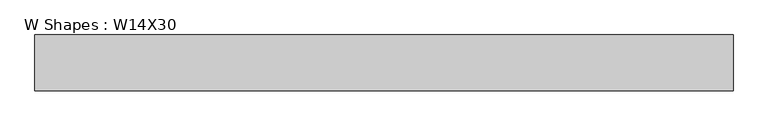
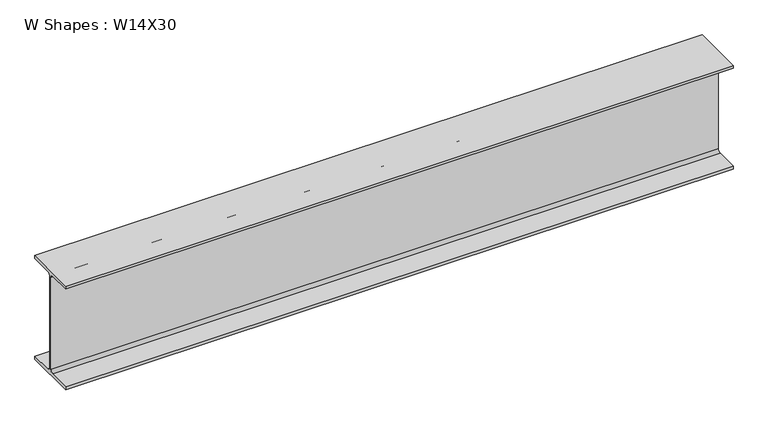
"""IFC4 building model written with IfcOpenShell, lengths in millimetres: beam geometry, W Shapes : W14X30."""

import ifcopenshell
import ifcopenshell.guid

model = None  # the IFC model being written
_history = None  # IfcOwnerHistory: only IFC2X3 demands one
_inside = {}  # id of a spatial element -> (the spatial element, [elements in it])
_under = {}  # id of a project, library or spatial element -> (it, [spatial elements below it])
_declared = {}  # id of a project -> (the project, [libraries it declares])
_typed = {}  # id of a type object -> (the type object, [elements of that type])
_made_of = {}  # id of a material, layer set ... -> (it, [elements and type objects made of it])


def new_model(schema):
    """Start an empty IFC model of exactly this schema.

    Asked for "IFC4X3", IfcOpenShell would pick the latest addendum, in which some entities
    have other attributes; the version numbers below select the first issue.
    IFC2X3 requires an IfcOwnerHistory on every rooted entity: one is made here for all.
    """
    global model, _history
    if schema == "IFC4X3":
        model = ifcopenshell.file(schema_version=(4, 3, 0, 0))
    else:
        model = ifcopenshell.file(schema=schema)
    _inside.clear()
    _under.clear()
    _declared.clear()
    _typed.clear()
    _made_of.clear()
    _history = None
    if model.schema == "IFC2X3":
        org = make("IfcOrganization", Name="unknown")
        user = make(
            "IfcPersonAndOrganization",
            ThePerson=make("IfcPerson", FamilyName="unknown"),
            TheOrganization=org,
        )
        app = make(
            "IfcApplication",
            ApplicationDeveloper=org,
            Version="unknown",
            ApplicationFullName="unknown",
            ApplicationIdentifier="unknown",
        )
        _history = make(
            "IfcOwnerHistory",
            OwningUser=user,
            OwningApplication=app,
            ChangeAction="ADDED",
            CreationDate=0,
        )
    return model


def make(cls, **values):
    """One entity of the class cls with the attributes given. An attribute that is None is left unset."""
    return model.create_entity(
        cls, **{name: value for name, value in values.items() if value is not None}
    )


def rooted(cls, **values):
    """An entity with a GlobalId (a new one), such as an element, a storey or a relation."""
    return make(cls, GlobalId=ifcopenshell.guid.new(), OwnerHistory=_history, **values)


def si_unit(unit_type, name, prefix=None):
    """IfcSIUnit, for example si_unit("LENGTHUNIT", "METRE", prefix="MILLI")."""
    return make("IfcSIUnit", UnitType=unit_type, Prefix=prefix, Name=name)


def assignment(units):
    """IfcUnitAssignment: the units of a project."""
    return None if units is None else make("IfcUnitAssignment", Units=units)


def point(xyz):
    """IfcCartesianPoint."""
    return None if xyz is None else make("IfcCartesianPoint", Coordinates=xyz)


def direction(xyz):
    """IfcDirection."""
    return None if xyz is None else make("IfcDirection", DirectionRatios=xyz)


def frame(location, z_axis=None, x_axis=None):
    """IfcAxis2Placement3D, a coordinate frame: its origin and axes. An axis left out is left unset."""
    return make(
        "IfcAxis2Placement3D",
        Location=point(location),
        Axis=direction(z_axis),
        RefDirection=direction(x_axis),
    )


def frame_2d(location, x_axis=None):
    """IfcAxis2Placement2D, a coordinate frame in the plane: its origin and x axis."""
    return make(
        "IfcAxis2Placement2D", Location=point(location), RefDirection=direction(x_axis)
    )


def origin():
    """The frame at (0, 0, 0) with its axes left unset."""
    return frame((0.0, 0.0, 0.0))


def place(relative_to, where):
    """IfcLocalPlacement: puts the frame where relative to a parent placement (None: the world)."""
    return make(
        "IfcLocalPlacement", PlacementRelTo=relative_to, RelativePlacement=where
    )


def context(
    kind, dimensions, precision=None, world=None, true_north=None, identifier=None
):
    """IfcGeometricRepresentationContext, for example the 3D "Model" context."""
    return make(
        "IfcGeometricRepresentationContext",
        ContextIdentifier=identifier,
        ContextType=kind,
        CoordinateSpaceDimension=dimensions,
        Precision=precision,
        WorldCoordinateSystem=world,
        TrueNorth=true_north,
    )


def project(units=None, contexts=None):
    """IfcProject with its units and contexts."""
    return rooted(
        "IfcProject",
        Name="project",
        RepresentationContexts=contexts,
        UnitsInContext=assignment(units),
    )


def spatial(cls, under=None, at=None, **own):
    """A site, building, storey or space (cls), placed at a placement, below another one or the project."""
    s = rooted(cls, ObjectPlacement=at, **own)
    if under is not None:
        _under.setdefault(under.id(), (under, []))[1].append(s)
    return s


def polyline(points):
    """IfcPolyline through the points."""
    return make("IfcPolyline", Points=[point(p) for p in points])


def circle_curve(where, radius):
    """IfcCircle in the frame where."""
    return make("IfcCircle", Position=where, Radius=radius)


def trimmed(basis, trim1, trim2, sense, master):
    """IfcTrimmedCurve: the piece of a basis curve between two trims."""
    return make(
        "IfcTrimmedCurve",
        BasisCurve=basis,
        Trim1=trim1,
        Trim2=trim2,
        SenseAgreement=sense,
        MasterRepresentation=master,
    )


def segment(curve, same_sense, transition):
    """IfcCompositeCurveSegment."""
    return make(
        "IfcCompositeCurveSegment",
        Transition=transition,
        SameSense=same_sense,
        ParentCurve=curve,
    )


def composite_curve(segments, self_intersect=None):
    """IfcCompositeCurve: segments joined end to end."""
    return make("IfcCompositeCurve", Segments=segments, SelfIntersect=self_intersect)


def outline(outer, holes=None, kind="AREA"):
    """IfcArbitraryClosedProfileDef: a profile drawn as a closed curve; with holes, ...WithVoids."""
    if holes is None:
        return make("IfcArbitraryClosedProfileDef", ProfileType=kind, OuterCurve=outer)
    return make(
        "IfcArbitraryProfileDefWithVoids",
        ProfileType=kind,
        OuterCurve=outer,
        InnerCurves=holes,
    )


def extrude(swept, where, along, depth):
    """IfcExtrudedAreaSolid: the profile swept, set in the frame where, extruded along a direction by depth."""
    return make(
        "IfcExtrudedAreaSolid",
        SweptArea=swept,
        Position=where,
        ExtrudedDirection=direction(along),
        Depth=depth,
    )


def shape(context_of_items, identifier, shape_type, items):
    """IfcShapeRepresentation: the items that make up one representation, for example the "Body"."""
    return make(
        "IfcShapeRepresentation",
        ContextOfItems=context_of_items,
        RepresentationIdentifier=identifier,
        RepresentationType=shape_type,
        Items=items,
    )


def source(mapping_origin, context_of_items, identifier, shape_type, items):
    """IfcRepresentationMap: a shape defined once, which mapped items show again and again."""
    return make(
        "IfcRepresentationMap",
        MappingOrigin=mapping_origin,
        MappedRepresentation=shape(context_of_items, identifier, shape_type, items),
    )


def transform(
    local_origin,
    x_axis=None,
    y_axis=None,
    z_axis=None,
    scale=None,
    scale2=None,
    scale3=None,
    uniform=True,
):
    """IfcCartesianTransformationOperator3D, or its non-uniform kind. x_axis, y_axis, z_axis: its Axis1, 2, 3."""
    if uniform:
        return make(
            "IfcCartesianTransformationOperator3D",
            Axis1=direction(x_axis),
            Axis2=direction(y_axis),
            LocalOrigin=point(local_origin),
            Scale=scale,
            Axis3=direction(z_axis),
        )
    return make(
        "IfcCartesianTransformationOperator3DnonUniform",
        Axis1=direction(x_axis),
        Axis2=direction(y_axis),
        LocalOrigin=point(local_origin),
        Scale=scale,
        Axis3=direction(z_axis),
        Scale2=scale2,
        Scale3=scale3,
    )


def mapped(mapping_source, mapping_target):
    """IfcMappedItem: shows the shape of a source again, moved by a transform."""
    return make(
        "IfcMappedItem", MappingSource=mapping_source, MappingTarget=mapping_target
    )


def made_of(thing, what):
    """Note that an element or type object is made of a material, layer set ...; save() writes the relation."""
    if what is not None:
        _made_of.setdefault(what.id(), (what, []))[1].append(thing)
    return thing


def element(
    cls,
    number,
    at=None,
    inside=None,
    cuts=None,
    type_object=None,
    material=None,
    context=None,
    identifier="Body",
    shape_type=None,
    held_by="IfcProductDefinitionShape",
    body=None,
    shapes=None,
    **own,
):
    """One element of the class cls, such as IfcWall. Its Tag is "e" and its number.

    at: its placement. inside: the storey or other place that contains it. cuts: it is an
    opening in that element (IfcRelVoidsElement). A single representation is given by context,
    identifier, shape_type and body (its items); several are given by shapes. held_by: the class
    of the entity that holds the representations. save() writes the other relations.
    """
    e = rooted(cls, Tag="e%d" % number, ObjectPlacement=at, **own)
    if body is not None:
        shapes = [shape(context, identifier, shape_type, body)]
    if shapes is not None:
        e.Representation = make(held_by, Representations=shapes)
    if inside is not None:
        _inside.setdefault(inside.id(), (inside, []))[1].append(e)
    if cuts is not None:
        rooted(
            "IfcRelVoidsElement", RelatingBuildingElement=cuts, RelatedOpeningElement=e
        )
    if type_object is not None:
        _typed.setdefault(type_object.id(), (type_object, []))[1].append(e)
    return made_of(e, material)


def aggregate(whole, parts):
    """IfcRelAggregates: a whole, such as a stair, and the parts it consists of."""
    return rooted("IfcRelAggregates", RelatingObject=whole, RelatedObjects=parts)


def save(model, path):
    """Write the relations noted so far, then the file.

    IfcRelAggregates (storeys below a building ...), IfcRelContainedInSpatialStructure (elements
    in a storey), IfcRelDefinesByType, IfcRelAssociatesMaterial and IfcRelDeclares: one each for
    every whole, place, type object, material and project.
    """
    for whole, parts in _under.values():
        aggregate(whole, parts)
    for where, things in _inside.values():
        rooted(
            "IfcRelContainedInSpatialStructure",
            RelatedElements=things,
            RelatingStructure=where,
        )
    for kind, things in _typed.values():
        rooted("IfcRelDefinesByType", RelatedObjects=things, RelatingType=kind)
    for what, things in _made_of.values():
        rooted("IfcRelAssociatesMaterial", RelatedObjects=things, RelatingMaterial=what)
    for by, libraries in _declared.values():
        rooted("IfcRelDeclares", RelatingContext=by, RelatedDefinitions=libraries)
    model.write(path)


def w_shapes_w14x30_1f0b7ad3(model_context):
    return source(origin(), model_context, "Body", "SweptSolid", [
        extrude(outline(composite_curve([segment(polyline([(85.471, -165.354), (85.471, -175.26), (-85.471, -175.26), (-85.471, -165.354), (-13.589, -165.354)]), True, "CONTINUOUS"), segment(trimmed(circle_curve(frame_2d((-13.589, -155.194)), 10.16), [point((-13.589, -165.354))], [point((-3.429, -155.194))], True, "CARTESIAN"), True, "CONTINUOUS"), segment(polyline([(-3.429, -155.194), (-3.429, 155.194)]), True, "CONTINUOUS"), segment(trimmed(circle_curve(frame_2d((-13.589, 155.194)), 10.16), [point((-3.429, 155.194))], [point((-13.589, 165.354))], True, "CARTESIAN"), True, "CONTINUOUS"), segment(polyline([(-13.589, 165.354), (-85.471, 165.354), (-85.471, 175.26), (85.471, 175.26), (85.471, 165.354), (13.589, 165.354)]), True, "CONTINUOUS"), segment(trimmed(circle_curve(frame_2d((13.589, 155.194)), 10.16), [point((13.589, 165.354))], [point((3.429, 155.194))], True, "CARTESIAN"), True, "CONTINUOUS"), segment(polyline([(3.429, 155.194), (3.429, -155.194)]), True, "CONTINUOUS"), segment(trimmed(circle_curve(frame_2d((13.589, -155.194)), 10.16), [point((3.429, -155.194))], [point((13.589, -165.354))], True, "CARTESIAN"), True, "CONTINUOUS"), segment(polyline([(13.589, -165.354), (85.471, -165.354)]), True, "CONTINUOUS")], self_intersect=False)), frame((-1067.6147122, 0.0, 0.0), z_axis=(1.0, 0.0, 0.0), x_axis=(0.0, 1.0, 0.0)), (0.0, 0.0, 1.0), 2135.2294243),
    ])


if __name__ == "__main__":
    model = new_model("IFC4")
    model_context = context("Model", 3, world=origin())
    ifc_project = project(units=[si_unit("LENGTHUNIT", "METRE", prefix="MILLI")], contexts=[model_context])
    site = spatial("IfcSite", under=ifc_project)
    building = spatial("IfcBuilding", under=site)
    placement = place(None, origin())
    w_shapes_w14x30_shape = w_shapes_w14x30_1f0b7ad3(model_context)
    element("IfcBeam", 1, ObjectType="W Shapes : W14X30", at=placement, inside=building, context=model_context, shape_type="MappedRepresentation", body=[
        mapped(w_shapes_w14x30_shape, transform((0.0, 0.0, 0.0), x_axis=(1.0, 0.0, 0.0), y_axis=(0.0, 1.0, 0.0), z_axis=(0.0, 0.0, 1.0))),
    ])
    save(model, "model.ifc")
